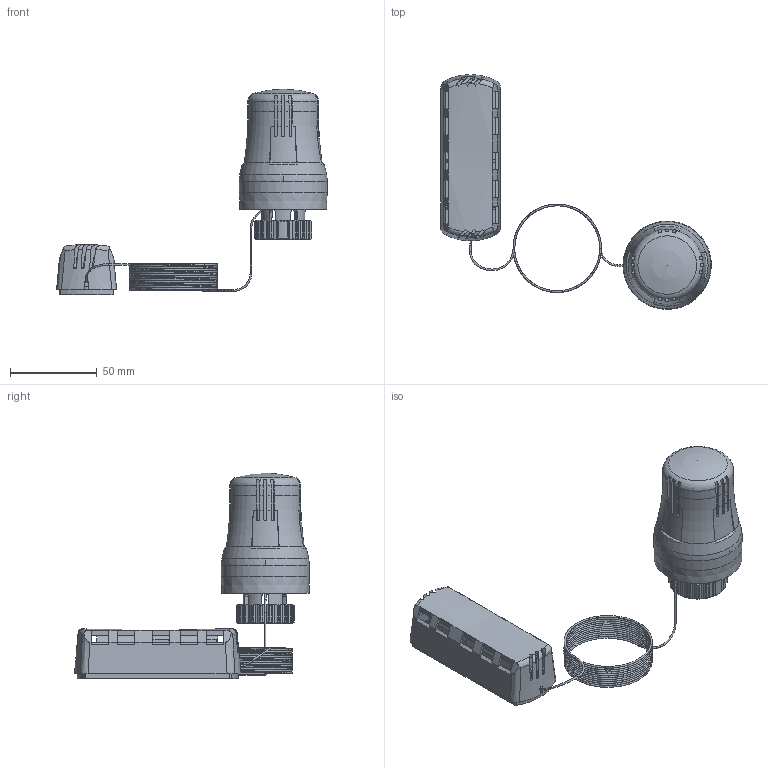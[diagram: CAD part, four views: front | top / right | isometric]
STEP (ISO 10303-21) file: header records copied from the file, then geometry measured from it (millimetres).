
FILE_DESCRIPTION(('STEP AP203'), '1');
FILE_NAME('VT.3510.0.0', '', ('UNSPECIFIED'), ('UNSPECIFIED'), 'C3D Converter', 'C3D Toolkit', '');
FILE_SCHEMA(('CONFIG_CONTROL_DESIGN'));
Length unit declared in the file: millimetre
Products named in the file (1): ВР.304555.011.000 СБ
Bounding box: 156.3 x 135.66 x 118.68 mm (x, y, z)
Volume: 149668.4 mm3; surface area: 53109.1 mm2
Topology: 2 solids, 2 shells, 609 faces, 1744 edges, 1107 vertices
Faces by surface type: plane 341, cylinder 137, cone 62, torus 33, bspline 31, extrusion 4, sphere 1
Full cylindrical faces by diameter (mm): 1 x6, 18 x1, 25.5 x1, 26.5 x1, 28.6 x1, 47.8 x1, 51 x1
Entity records: 31832 total; most frequent: CARTESIAN_POINT 16849, ORIENTED_EDGE 3422, DIRECTION 2706, EDGE_CURVE 1711, VERTEX_POINT 1106, AXIS2_PLACEMENT_3D 918, VECTOR 870, LINE 866
